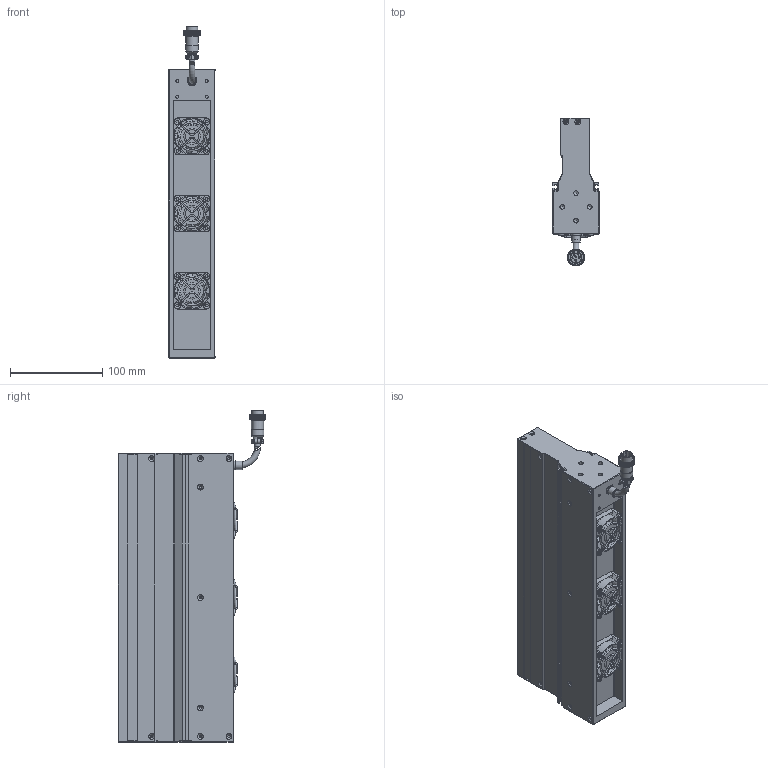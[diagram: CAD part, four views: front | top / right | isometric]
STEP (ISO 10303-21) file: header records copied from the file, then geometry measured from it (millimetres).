
FILE_DESCRIPTION (( 'STEP AP203' ), '1' );
FILE_NAME ('OPT-LSSC314-W-V3.1U尨砩芞.STEP', '2025-02-05T03:53:21', ( 'USER' ), ( '' ), 'SwSTEP 2.0', 'SolidWorks 2016', '' );
FILE_SCHEMA (( 'CONFIG_CONTROL_DESIGN' ));
Products named in the file (2): OPT-LSSC314-W-V3.1U尨砩芞
Bounding box: 50 x 160.65 x 360.83 mm (x, y, z)
Volume: 1223165.8 mm3; surface area: 249664.6 mm2
Topology: 18 solids, 26 shells, 3982 faces, 8867 edges, 5023 vertices
Faces by surface type: bspline 2140, cylinder 833, plane 823, torus 119, cone 67
Full cylindrical faces by diameter (mm): 0.95 x6, 1.6 x12, 2 x7, 2.5 x22, 3.2 x16, 3.4 x24, 3.5 x4, 5 x8, 6.2 x12, 6.4 x3, 7.5 x1, 8.6 x1, 9.3 x1, 9.8 x1, 10 x1, 13.2 x1, 14 x1, 16.1 x1, 24.8 x3, 38 x3
Entity records: 133584 total; most frequent: CARTESIAN_POINT 65935, ORIENTED_EDGE 17036, EDGE_CURVE 8518, DIRECTION 7272, B_SPLINE_CURVE_WITH_KNOTS 5731, VERTEX_POINT 4937, EDGE_LOOP 4365, FACE_OUTER_BOUND 4172
